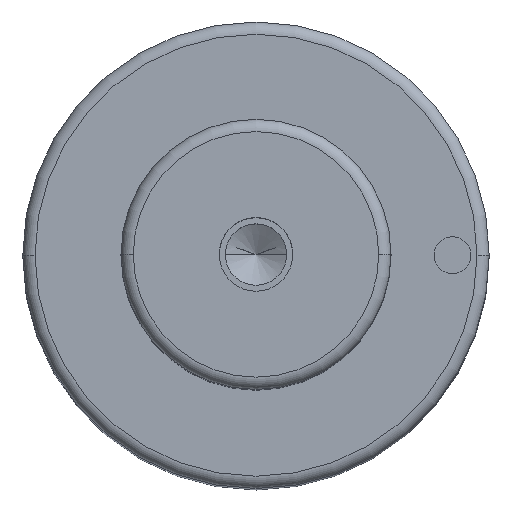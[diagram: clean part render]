
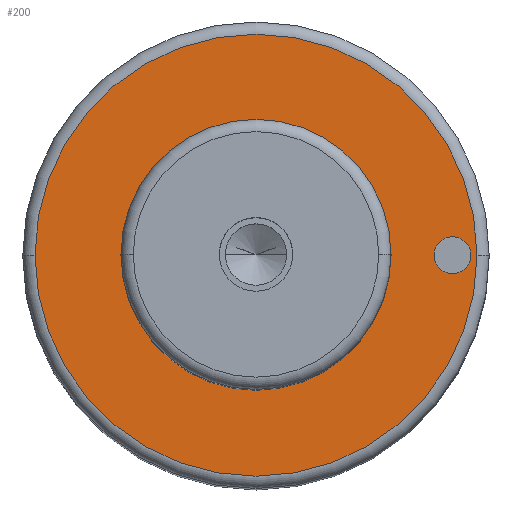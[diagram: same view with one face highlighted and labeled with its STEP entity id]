
A CAD part, top view. The second image highlights one B-rep face of the part: STEP entity #200.
In plain terms, the highlighted planar face has unit normal (0, 0, 1).
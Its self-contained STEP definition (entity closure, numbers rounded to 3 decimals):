
#99=PLANE('',#596);
#107=FACE_BOUND('',#265,.T.);
#108=FACE_BOUND('',#266,.T.);
#109=FACE_BOUND('',#267,.T.);
#200=ADVANCED_FACE('',(#107,#108,#109),#99,.T.);
#265=EDGE_LOOP('',(#359,#360));
#266=EDGE_LOOP('',(#361,#362));
#267=EDGE_LOOP('',(#363,#364));
#359=ORIENTED_EDGE('',*,*,#460,.F.);
#360=ORIENTED_EDGE('',*,*,#461,.F.);
#361=ORIENTED_EDGE('',*,*,#485,.F.);
#362=ORIENTED_EDGE('',*,*,#486,.F.);
#363=ORIENTED_EDGE('',*,*,#456,.T.);
#364=ORIENTED_EDGE('',*,*,#454,.T.);
#411=VERTEX_POINT('',#808);
#412=VERTEX_POINT('',#810);
#413=VERTEX_POINT('',#816);
#416=VERTEX_POINT('',#821);
#430=VERTEX_POINT('',#875);
#431=VERTEX_POINT('',#876);
#454=EDGE_CURVE('',#412,#411,#513,.T.);
#456=EDGE_CURVE('',#411,#412,#514,.T.);
#460=EDGE_CURVE('',#416,#413,#518,.T.);
#461=EDGE_CURVE('',#413,#416,#519,.T.);
#485=EDGE_CURVE('',#430,#431,#533,.T.);
#486=EDGE_CURVE('',#431,#430,#534,.T.);
#513=CIRCLE('',#558,11.);
#514=CIRCLE('',#560,11.);
#518=CIRCLE('',#565,18.);
#519=CIRCLE('',#567,18.);
#533=CIRCLE('',#594,1.5);
#534=CIRCLE('',#595,1.5);
#558=AXIS2_PLACEMENT_3D('',#809,#647,#648);
#560=AXIS2_PLACEMENT_3D('',#813,#652,#653);
#565=AXIS2_PLACEMENT_3D('',#822,#662,#663);
#567=AXIS2_PLACEMENT_3D('',#824,#666,#667);
#594=AXIS2_PLACEMENT_3D('',#874,#730,#731);
#595=AXIS2_PLACEMENT_3D('',#877,#732,#733);
#596=AXIS2_PLACEMENT_3D('',#878,#734,#735);
#647=DIRECTION('',(0.,0.,-1.));
#648=DIRECTION('',(0.,1.,0.));
#652=DIRECTION('',(0.,0.,-1.));
#653=DIRECTION('',(0.,-1.,0.));
#662=DIRECTION('',(0.,0.,-1.));
#663=DIRECTION('',(0.,1.,0.));
#666=DIRECTION('',(0.,0.,-1.));
#667=DIRECTION('',(0.,-1.,0.));
#730=DIRECTION('',(0.,0.,1.));
#731=DIRECTION('',(0.,1.,0.));
#732=DIRECTION('',(0.,0.,1.));
#733=DIRECTION('',(0.,-1.,0.));
#734=DIRECTION('',(0.,0.,1.));
#735=DIRECTION('',(0.,-1.,0.));
#808=CARTESIAN_POINT('',(-11.,0.,72.));
#809=CARTESIAN_POINT('',(0.,0.,72.));
#810=CARTESIAN_POINT('',(11.,0.,72.));
#813=CARTESIAN_POINT('',(0.,0.,72.));
#816=CARTESIAN_POINT('',(-18.,0.,72.));
#821=CARTESIAN_POINT('',(18.,0.,72.));
#822=CARTESIAN_POINT('',(0.,0.,72.));
#824=CARTESIAN_POINT('',(0.,0.,72.));
#874=CARTESIAN_POINT('',(16.,0.,72.));
#875=CARTESIAN_POINT('',(14.5,0.,72.));
#876=CARTESIAN_POINT('',(17.5,0.,72.));
#877=CARTESIAN_POINT('',(16.,0.,72.));
#878=CARTESIAN_POINT('',(0.,0.,72.));
